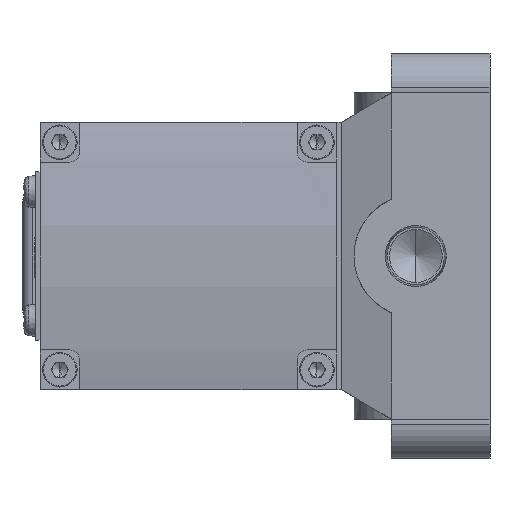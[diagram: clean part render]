
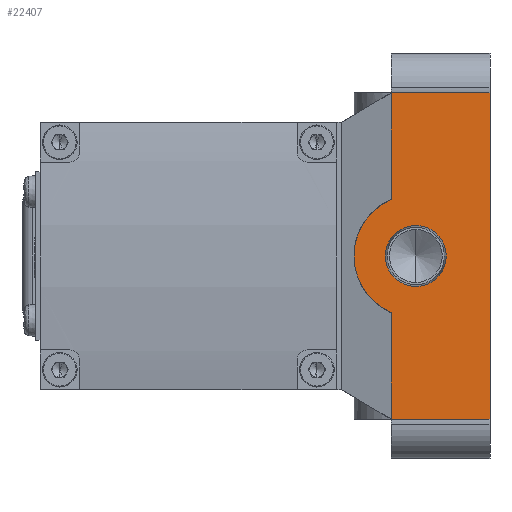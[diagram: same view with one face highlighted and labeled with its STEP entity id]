
A CAD part, left-side view. The second image highlights one B-rep face of the part: STEP entity #22407.
In plain terms, the highlighted planar face has unit normal (-1, 0, 0).
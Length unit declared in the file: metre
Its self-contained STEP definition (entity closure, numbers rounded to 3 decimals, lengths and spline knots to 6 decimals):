
#179 = VECTOR ( 'NONE', #24028, 1. ) ;
#491 = ORIENTED_EDGE ( 'NONE', *, *, #18611, .F. ) ;
#1008 = CARTESIAN_POINT ( 'NONE',  ( -0.038, 0.015, 0. ) ) ;
#1437 = EDGE_LOOP ( 'NONE', ( #11050, #491, #4447, #22166, #27482, #7252 ) ) ;
#1462 = CARTESIAN_POINT ( 'NONE',  ( -0.038, 0.013832, -0.033 ) ) ;
#1532 = DIRECTION ( 'NONE',  ( 0., 0., 1. ) ) ;
#1798 = VECTOR ( 'NONE', #11485, 1. ) ;
#2052 = AXIS2_PLACEMENT_3D ( 'NONE', #17436, #17492, #17928 ) ;
#2368 = CIRCLE ( 'NONE', #2052, 0.006154 ) ;
#2443 = CARTESIAN_POINT ( 'NONE',  ( -0.038, 0.015, 0. ) ) ;
#2553 = LINE ( 'NONE', #13941, #1798 ) ;
#3995 = VECTOR ( 'NONE', #6258, 1. ) ;
#4447 = ORIENTED_EDGE ( 'NONE', *, *, #20181, .T. ) ;
#5353 = CARTESIAN_POINT ( 'NONE',  ( -0.038, 0., -0.033 ) ) ;
#5693 = PLANE ( 'NONE',  #17988 ) ;
#5818 = FACE_BOUND ( 'NONE', #8294, .T. ) ;
#6258 = DIRECTION ( 'NONE',  ( 0., -1., 0. ) ) ;
#6759 = DIRECTION ( 'NONE',  ( 0., 0., -1. ) ) ;
#7085 = ORIENTED_EDGE ( 'NONE', *, *, #8200, .F. ) ;
#7252 = ORIENTED_EDGE ( 'NONE', *, *, #18375, .F. ) ;
#8119 = DIRECTION ( 'NONE',  ( 1., 0., 0. ) ) ;
#8200 = EDGE_CURVE ( 'NONE', #12559, #16088, #14786, .T. ) ;
#8294 = EDGE_LOOP ( 'NONE', ( #23595, #7085 ) ) ;
#9007 = CARTESIAN_POINT ( 'NONE',  ( -0.038, 0.02, -0.011456 ) ) ;
#11050 = ORIENTED_EDGE ( 'NONE', *, *, #13848, .F. ) ;
#11057 = CARTESIAN_POINT ( 'NONE',  ( -0.038, 0.021154, 0. ) ) ;
#11485 = DIRECTION ( 'NONE',  ( 0., 0., 1. ) ) ;
#12420 = LINE ( 'NONE', #19195, #179 ) ;
#12559 = VERTEX_POINT ( 'NONE', #11057 ) ;
#13742 = VERTEX_POINT ( 'NONE', #28777 ) ;
#13848 = EDGE_CURVE ( 'NONE', #25642, #13742, #24092, .T. ) ;
#13941 = CARTESIAN_POINT ( 'NONE',  ( -0.038, 0.02, 0. ) ) ;
#14009 = EDGE_CURVE ( 'NONE', #16088, #12559, #2368, .T. ) ;
#14057 = CARTESIAN_POINT ( 'NONE',  ( -0.038, 0.02, -0.033 ) ) ;
#14786 = CIRCLE ( 'NONE', #15872, 0.006154 ) ;
#15400 = CARTESIAN_POINT ( 'NONE',  ( -0.038, 0., 0.033 ) ) ;
#15606 = DIRECTION ( 'NONE',  ( -1., 0., 0. ) ) ;
#15872 = AXIS2_PLACEMENT_3D ( 'NONE', #1008, #15606, #30164 ) ;
#16088 = VERTEX_POINT ( 'NONE', #25242 ) ;
#16984 = LINE ( 'NONE', #1462, #3995 ) ;
#17436 = CARTESIAN_POINT ( 'NONE',  ( -0.038, 0.015, 0. ) ) ;
#17492 = DIRECTION ( 'NONE',  ( -1., 0., 0. ) ) ;
#17685 = VERTEX_POINT ( 'NONE', #29675 ) ;
#17928 = DIRECTION ( 'NONE',  ( 0., -1., 0. ) ) ;
#17988 = AXIS2_PLACEMENT_3D ( 'NONE', #15400, #8119, #25148 ) ;
#18375 = EDGE_CURVE ( 'NONE', #13742, #28316, #2553, .T. ) ;
#18611 = EDGE_CURVE ( 'NONE', #23328, #25642, #23142, .T. ) ;
#19195 = CARTESIAN_POINT ( 'NONE',  ( -0.038, 0.01, 0.033 ) ) ;
#20181 = EDGE_CURVE ( 'NONE', #23328, #21530, #16984, .T. ) ;
#20272 = EDGE_CURVE ( 'NONE', #17685, #21530, #27553, .T. ) ;
#20372 = EDGE_CURVE ( 'NONE', #17685, #28316, #12420, .T. ) ;
#21530 = VERTEX_POINT ( 'NONE', #5353 ) ;
#22166 = ORIENTED_EDGE ( 'NONE', *, *, #20272, .F. ) ;
#22376 = VECTOR ( 'NONE', #28659, 1. ) ;
#22407 = ADVANCED_FACE ( 'NONE', ( #5818, #24463 ), #5693, .F. ) ;
#23142 = LINE ( 'NONE', #29024, #22376 ) ;
#23328 = VERTEX_POINT ( 'NONE', #14057 ) ;
#23595 = ORIENTED_EDGE ( 'NONE', *, *, #14009, .F. ) ;
#23839 = CARTESIAN_POINT ( 'NONE',  ( -0.038, 0., 0. ) ) ;
#24028 = DIRECTION ( 'NONE',  ( 0., 1., 0. ) ) ;
#24092 = CIRCLE ( 'NONE', #26199, 0.0125 ) ;
#24463 = FACE_OUTER_BOUND ( 'NONE', #1437, .T. ) ;
#25148 = DIRECTION ( 'NONE',  ( 0., 0., -1. ) ) ;
#25242 = CARTESIAN_POINT ( 'NONE',  ( -0.038, 0.008846, 0. ) ) ;
#25573 = DIRECTION ( 'NONE',  ( 1., 0., 0. ) ) ;
#25642 = VERTEX_POINT ( 'NONE', #9007 ) ;
#26199 = AXIS2_PLACEMENT_3D ( 'NONE', #2443, #25573, #1532 ) ;
#26775 = VECTOR ( 'NONE', #6759, 1. ) ;
#27482 = ORIENTED_EDGE ( 'NONE', *, *, #20372, .T. ) ;
#27553 = LINE ( 'NONE', #23839, #26775 ) ;
#28316 = VERTEX_POINT ( 'NONE', #28663 ) ;
#28659 = DIRECTION ( 'NONE',  ( 0., 0., 1. ) ) ;
#28663 = CARTESIAN_POINT ( 'NONE',  ( -0.038, 0.02, 0.033 ) ) ;
#28777 = CARTESIAN_POINT ( 'NONE',  ( -0.038, 0.02, 0.011456 ) ) ;
#29024 = CARTESIAN_POINT ( 'NONE',  ( -0.038, 0.02, 0. ) ) ;
#29675 = CARTESIAN_POINT ( 'NONE',  ( -0.038, 0., 0.033 ) ) ;
#30164 = DIRECTION ( 'NONE',  ( 0., -1., 0. ) ) ;
